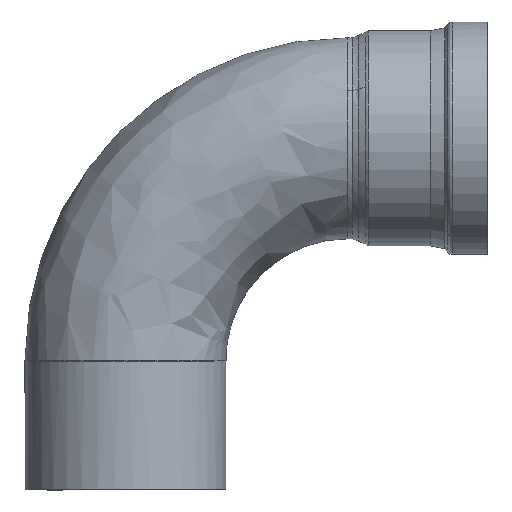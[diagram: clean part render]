
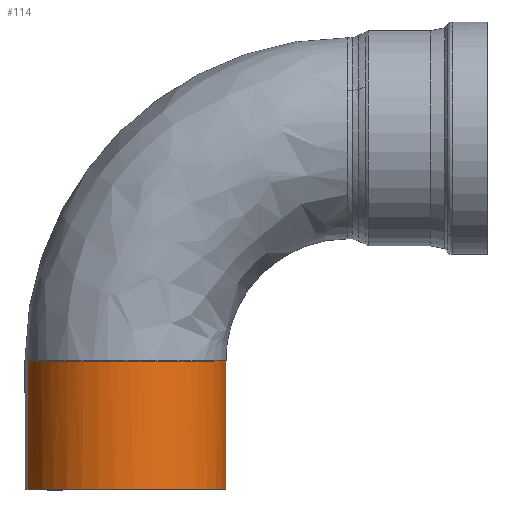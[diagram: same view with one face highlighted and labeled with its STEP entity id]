
A CAD part, front view. The second image highlights one B-rep face of the part: STEP entity #114.
In plain terms, the highlighted free-form (B-spline) face has degree [1, 2] with [2, 7] control points.
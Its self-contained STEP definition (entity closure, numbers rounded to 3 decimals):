
#114=ADVANCED_FACE('',(#224),#225,.T.);
#224=FACE_OUTER_BOUND('',#815,.T.);
#225=(B_SPLINE_SURFACE(1,2,((#817,#818,#819,#820,#821,#822,#823),(#824,#825,#826,#827,#828,#829,#830)),.UNSPECIFIED.,.F.,.F.,.F.)B_SPLINE_SURFACE_WITH_KNOTS((2,2),(3,2,2,3),(0.008,1.0),(0.0,0.369,0.738,0.971),.UNSPECIFIED.)RATIONAL_B_SPLINE_SURFACE(((1.0,0.5,1.0,0.5,1.0,0.685,0.767),(1.0,0.5,1.0,0.5,1.0,0.685,0.767)))BOUNDED_SURFACE()REPRESENTATION_ITEM('')GEOMETRIC_REPRESENTATION_ITEM()SURFACE());
#815=EDGE_LOOP('',(#1098,#1099,#1100,#1101,#1102,#1103,#1104,#1105,#1106,#1107));
#817=CARTESIAN_POINT('',(-44.529,24.326,-177.002));
#818=CARTESIAN_POINT('',(-2.395,101.452,-177.002));
#819=CARTESIAN_POINT('',(43.331,26.4,-177.002));
#820=CARTESIAN_POINT('',(89.057,-48.652,-177.002));
#821=CARTESIAN_POINT('',(1.197,-50.726,-177.002));
#822=CARTESIAN_POINT('',(-39.273,-51.681,-177.002));
#823=CARTESIAN_POINT('',(-49.193,-12.433,-177.002));
#824=CARTESIAN_POINT('',(-44.529,24.326,-112.));
#825=CARTESIAN_POINT('',(-2.395,101.452,-112.));
#826=CARTESIAN_POINT('',(43.331,26.4,-112.));
#827=CARTESIAN_POINT('',(89.057,-48.652,-112.));
#828=CARTESIAN_POINT('',(1.197,-50.726,-112.));
#829=CARTESIAN_POINT('',(-39.273,-51.681,-112.));
#830=CARTESIAN_POINT('',(-49.193,-12.433,-112.));
#1098=ORIENTED_EDGE('',*,*,#1230,.T.);
#1099=ORIENTED_EDGE('',*,*,#1214,.T.);
#1100=ORIENTED_EDGE('',*,*,#1138,.T.);
#1101=ORIENTED_EDGE('',*,*,#1231,.T.);
#1102=ORIENTED_EDGE('',*,*,#1232,.T.);
#1103=ORIENTED_EDGE('',*,*,#1233,.F.);
#1104=ORIENTED_EDGE('',*,*,#1217,.T.);
#1105=ORIENTED_EDGE('',*,*,#1153,.T.);
#1106=ORIENTED_EDGE('',*,*,#1234,.F.);
#1107=ORIENTED_EDGE('',*,*,#1235,.T.);
#1138=EDGE_CURVE('',#1270,#1268,#1271,.T.);
#1153=EDGE_CURVE('',#1286,#1294,#1296,.T.);
#1214=EDGE_CURVE('',#1382,#1270,#1383,.T.);
#1217=EDGE_CURVE('',#1386,#1286,#1387,.T.);
#1230=EDGE_CURVE('',#1402,#1382,#1403,.T.);
#1231=EDGE_CURVE('',#1268,#1404,#1405,.T.);
#1232=EDGE_CURVE('',#1404,#1406,#1407,.T.);
#1233=EDGE_CURVE('',#1386,#1406,#1408,.T.);
#1234=EDGE_CURVE('',#1409,#1294,#1410,.T.);
#1235=EDGE_CURVE('',#1409,#1402,#1411,.T.);
#1268=VERTEX_POINT('',#1599);
#1270=VERTEX_POINT('',#1612);
#1271=(B_SPLINE_CURVE(2,(#1614,#1615,#1616),.UNSPECIFIED.,.F.,.F.)B_SPLINE_CURVE_WITH_KNOTS((3,3),(2.642,3.142),.UNSPECIFIED.)RATIONAL_B_SPLINE_CURVE((1.0,0.969,1.0))BOUNDED_CURVE()REPRESENTATION_ITEM('')GEOMETRIC_REPRESENTATION_ITEM()CURVE());
#1286=VERTEX_POINT('',#1702);
#1294=VERTEX_POINT('',#1730);
#1296=CIRCLE('',#1732,50.738);
#1382=VERTEX_POINT('',#2013);
#1383=(B_SPLINE_CURVE(2,(#2015,#2016,#2017,#2018,#2019),.UNSPECIFIED.,.F.,.F.)B_SPLINE_CURVE_WITH_KNOTS((3,2,3),(0.,1.321,2.642),.UNSPECIFIED.)RATIONAL_B_SPLINE_CURVE((1.0,0.79,1.0,0.79,1.0))BOUNDED_CURVE()REPRESENTATION_ITEM('')GEOMETRIC_REPRESENTATION_ITEM()CURVE());
#1386=VERTEX_POINT('',#2039);
#1387=CIRCLE('',#2040,50.738);
#1402=VERTEX_POINT('',#2110);
#1403=B_SPLINE_CURVE_WITH_KNOTS('',3,(#2111,#2112,#2113,#2114),.UNSPECIFIED.,.F.,.F.,(4,4),(0.0,1.0),.UNSPECIFIED.);
#1404=VERTEX_POINT('',#2115);
#1405=B_SPLINE_CURVE_WITH_KNOTS('',3,(#2116,#2117,#2118,#2119),.UNSPECIFIED.,.F.,.F.,(4,4),(0.0,1.0),.UNSPECIFIED.);
#1406=VERTEX_POINT('',#2120);
#1407=B_SPLINE_CURVE_WITH_KNOTS('',3,(#2121,#2122,#2123,#2124,#2125,#2126,#2127,#2128,#2129,#2130,#2131,#2132,#2133,#2134,#2135,#2136,#2137,#2138),.UNSPECIFIED.,.F.,.F.,(4,2,2,2,2,2,2,2,4),(0.0,0.125,0.25,0.375,0.5,0.625,0.75,0.875,1.0),.UNSPECIFIED.);
#1408=LINE('',#2139,#2140);
#1409=VERTEX_POINT('',#2141);
#1410=LINE('',#2142,#2143);
#1411=B_SPLINE_CURVE_WITH_KNOTS('',3,(#2144,#2145,#2146,#2147,#2148,#2149,#2150,#2151,#2152,#2153,#2154,#2155,#2156,#2157,#2158,#2159,#2160,#2161),.UNSPECIFIED.,.F.,.F.,(4,2,2,2,2,2,2,2,4),(0.0,0.125,0.25,0.375,0.5,0.625,0.75,0.875,1.0),.UNSPECIFIED.);
#1599=CARTESIAN_POINT('',(44.529,-24.326,-112.));
#1612=CARTESIAN_POINT('',(50.74,0.,-112.));
#1614=CARTESIAN_POINT('',(50.74,0.,-112.));
#1615=CARTESIAN_POINT('',(50.74,-12.956,-112.));
#1616=CARTESIAN_POINT('',(44.529,-24.326,-112.));
#1702=CARTESIAN_POINT('',(12.444,-49.188,-177.));
#1730=CARTESIAN_POINT('',(49.188,12.444,-177.));
#1732=AXIS2_PLACEMENT_3D('',#2171,#2172,#2173);
#2013=CARTESIAN_POINT('',(-44.529,24.326,-112.));
#2015=CARTESIAN_POINT('',(-44.529,24.326,-112.));
#2016=CARTESIAN_POINT('',(-25.633,58.913,-112.));
#2017=CARTESIAN_POINT('',(12.553,49.163,-112.0));
#2018=CARTESIAN_POINT('',(50.74,39.412,-112.));
#2019=CARTESIAN_POINT('',(50.74,0.,-112.));
#2039=CARTESIAN_POINT('',(-49.188,-12.444,-177.));
#2040=AXIS2_PLACEMENT_3D('',#2224,#2225,#2226);
#2110=CARTESIAN_POINT('',(-44.527,24.325,-112.5));
#2111=CARTESIAN_POINT('',(-44.527,24.325,-112.5));
#2112=CARTESIAN_POINT('',(-44.527,24.325,-112.333));
#2113=CARTESIAN_POINT('',(-44.529,24.326,-112.167));
#2114=CARTESIAN_POINT('',(-44.529,24.326,-112.));
#2115=CARTESIAN_POINT('',(44.527,-24.325,-112.5));
#2116=CARTESIAN_POINT('',(44.529,-24.326,-112.));
#2117=CARTESIAN_POINT('',(44.529,-24.326,-112.167));
#2118=CARTESIAN_POINT('',(44.527,-24.325,-112.333));
#2119=CARTESIAN_POINT('',(44.527,-24.325,-112.5));
#2120=CARTESIAN_POINT('',(-49.189,-12.444,-112.5));
#2121=CARTESIAN_POINT('',(44.527,-24.325,-112.5));
#2122=CARTESIAN_POINT('',(42.101,-28.767,-112.5));
#2123=CARTESIAN_POINT('',(39.006,-32.841,-112.5));
#2124=CARTESIAN_POINT('',(31.751,-39.899,-112.5));
#2125=CARTESIAN_POINT('',(27.592,-42.88,-112.5));
#2126=CARTESIAN_POINT('',(18.578,-47.485,-112.5));
#2127=CARTESIAN_POINT('',(13.725,-49.108,-112.5));
#2128=CARTESIAN_POINT('',(3.755,-50.851,-112.5));
#2129=CARTESIAN_POINT('',(-1.361,-50.971,-112.5));
#2130=CARTESIAN_POINT('',(-11.402,-49.698,-112.5));
#2131=CARTESIAN_POINT('',(-16.326,-48.305,-112.5));
#2132=CARTESIAN_POINT('',(-25.546,-44.129,-112.5));
#2133=CARTESIAN_POINT('',(-29.84,-41.346,-112.5));
#2134=CARTESIAN_POINT('',(-37.419,-34.638,-112.5));
#2135=CARTESIAN_POINT('',(-40.703,-30.713,-112.5));
#2136=CARTESIAN_POINT('',(-45.967,-22.069,-112.5));
#2137=CARTESIAN_POINT('',(-47.948,-17.351,-112.5));
#2138=CARTESIAN_POINT('',(-49.189,-12.444,-112.5));
#2139=CARTESIAN_POINT('',(-49.188,-12.444,-177.));
#2140=VECTOR('',#2230,1.0);
#2141=CARTESIAN_POINT('',(49.189,12.444,-112.5));
#2142=CARTESIAN_POINT('',(49.189,12.444,-112.5));
#2143=VECTOR('',#2231,1.0);
#2144=CARTESIAN_POINT('',(49.189,12.444,-112.5));
#2145=CARTESIAN_POINT('',(47.948,17.351,-112.5));
#2146=CARTESIAN_POINT('',(45.967,22.069,-112.5));
#2147=CARTESIAN_POINT('',(40.703,30.714,-112.5));
#2148=CARTESIAN_POINT('',(37.419,34.639,-112.5));
#2149=CARTESIAN_POINT('',(29.84,41.348,-112.5));
#2150=CARTESIAN_POINT('',(25.546,44.131,-112.5));
#2151=CARTESIAN_POINT('',(16.326,48.307,-112.5));
#2152=CARTESIAN_POINT('',(11.402,49.7,-112.5));
#2153=CARTESIAN_POINT('',(1.361,50.973,-112.5));
#2154=CARTESIAN_POINT('',(-3.755,50.853,-112.5));
#2155=CARTESIAN_POINT('',(-13.725,49.11,-112.5));
#2156=CARTESIAN_POINT('',(-18.578,47.486,-112.5));
#2157=CARTESIAN_POINT('',(-27.592,42.881,-112.5));
#2158=CARTESIAN_POINT('',(-31.75,39.9,-112.5));
#2159=CARTESIAN_POINT('',(-39.006,32.842,-112.5));
#2160=CARTESIAN_POINT('',(-42.101,28.767,-112.5));
#2161=CARTESIAN_POINT('',(-44.527,24.325,-112.5));
#2171=CARTESIAN_POINT('',(0.,0.,-177.));
#2172=DIRECTION('',(0.,0.,1.0));
#2173=DIRECTION('',(-0.969,-0.245,0.));
#2224=CARTESIAN_POINT('',(0.,0.,-177.));
#2225=DIRECTION('',(0.,0.,1.0));
#2226=DIRECTION('',(-0.969,-0.245,0.));
#2230=DIRECTION('',(0.,0.,1.));
#2231=DIRECTION('',(0.,0.,-1.));
